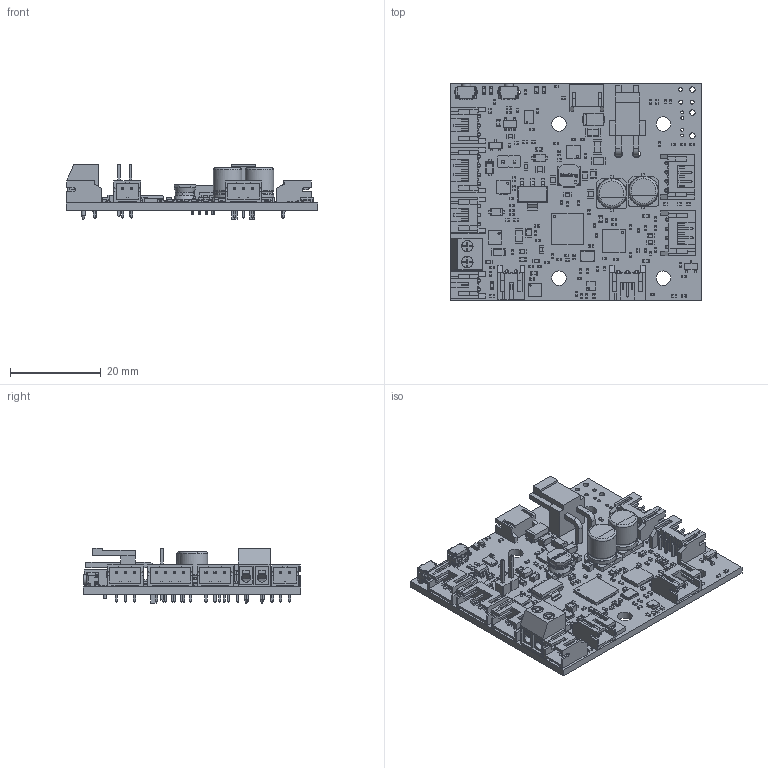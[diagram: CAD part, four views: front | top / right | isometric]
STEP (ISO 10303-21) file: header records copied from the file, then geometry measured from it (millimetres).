
FILE_DESCRIPTION(('KiCad electronic assembly'),'2;1');
FILE_NAME('Duet3_TB_1LC.step','2022-04-05T11:59:11',('Pcbnew'),('Kicad') ,'Open CASCADE STEP processor 7.5','KiCad to STEP converter','Unknown' );
FILE_SCHEMA(('AUTOMOTIVE_DESIGN { 1 0 10303 214 1 1 1 1 }'));
Length unit declared in the file: millimetre
Products named in the file (73): Duet3_TB_1LC 1; Crystal_SMD_SeikoEpson_FA238V-4Pin_3.2x2.5mm; SOLID; R_0402_1005Metric; SOT-23-5; SOT-23; DFN-8-1EP_3x3mm_P0.5mm_EP1.66x2.38mm; L_0402_1005Metric; R_1206_3216Metric; D_SOD-123F; C_1206_3216Metric; C_0402_1005Metric; C_0603_1608Metric; C_0805_2012Metric; QFN-28-1EP_5x5mm_P0.5mm_EP3.35x3.35mm; JST_ZH_S4B-ZH_1x04P1.50mm_Horizontal; SOT-223; SCREWTERMINAL-3_5MM-2; R_0603_1608Metric; SW_TAC_90_TL3340AF160QG; LED_0603_1608Metric; QFN-48-1EP_7x7mm_P0.5mm_EP5.15x5.15mm; JST_PH_S4B-PH-K_1x04_P2.00mm_Horizontal; JST_PH_S3B-PH-K_1x03_P2.00mm_Horizontal; JST_PH_S2B-PH-K_1x02_P2.00mm_Horizontal; QFN-16-1EP_3x3mm_P0.5mm_EP1.8x1.8mm; CP_Elec_6.3x7.7; DFN-8-1EP_3x2mm_P0.5mm_EP1.3x1.5mm; 74404054010_WE-LQS-5040_rev1; COMPOUND; D_SMA; L_1206_3216Metric; L_0805_2012Metric; B2PS-VH; PinHeader_1x02_P2.54mm_Vertical; L_0603_1608Metric; VDFN-8-1EP_2x2mm_P0.5mm_EP0.9x1.7mm; LGA-16_3x3mm_P0.5mm_LayoutBorder3x5y; Duet3_TB_1LC PCB; Duet3_TB_1LC 2
Assembly tree (193 placements, depth 3):
  Duet3_TB_1LC 1
    Crystal_SMD_SeikoEpson_FA238V-4Pin_3.2x2.5mm
      SOLID
    R_0402_1005Metric  x59
      SOLID
    SOT-23-5
      SOLID
    SOT-23  x2
      SOLID
    DFN-8-1EP_3x3mm_P0.5mm_EP1.66x2.38mm  x2
      SOLID
    L_0402_1005Metric
      SOLID
    R_1206_3216Metric
      SOLID
    D_SOD-123F  x3
      SOLID
    C_1206_3216Metric  x3
      SOLID
    C_0402_1005Metric  x31
      SOLID
    C_0603_1608Metric  x11
      SOLID
    C_0805_2012Metric  x5
      SOLID
    QFN-28-1EP_5x5mm_P0.5mm_EP3.35x3.35mm
      SOLID
    JST_ZH_S4B-ZH_1x04P1.50mm_Horizontal
      SOLID
    SOT-223
      SOLID
    SCREWTERMINAL-3_5MM-2
      SOLID
    R_0603_1608Metric  x2
      SOLID
    SW_TAC_90_TL3340AF160QG  x2
      SOLID
    LED_0603_1608Metric  x4
      SOLID
    QFN-48-1EP_7x7mm_P0.5mm_EP5.15x5.15mm
      SOLID
    JST_PH_S4B-PH-K_1x04_P2.00mm_Horizontal  x3
      SOLID
    JST_PH_S3B-PH-K_1x03_P2.00mm_Horizontal  x3
      SOLID
    JST_PH_S2B-PH-K_1x02_P2.00mm_Horizontal  x2
      SOLID
    QFN-16-1EP_3x3mm_P0.5mm_EP1.8x1.8mm
      SOLID
    CP_Elec_6.3x7.7  x2
      SOLID
    DFN-8-1EP_3x2mm_P0.5mm_EP1.3x1.5mm
      SOLID
    74404054010_WE-LQS-5040_rev1
      COMPOUND
    D_SMA
      SOLID
    L_1206_3216Metric
      SOLID
    L_0805_2012Metric
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Bounding box: 55.5 x 48 x 12.34 mm (x, y, z)
Volume: 6784.2 mm3; surface area: 12731.3 mm2
Topology: 162 solids, 164 shells, 7085 faces, 18787 edges, 12262 vertices
Faces by surface type: bspline 6965, cylinder 114, plane 6
Full cylindrical faces by diameter (mm): 0.3 x16, 0.4 x16, 0.65 x4, 0.7 x4, 0.75 x25, 0.84 x3, 0.889 x4, 1 x2, 1.1 x29, 1.199 x2, 1.2 x3, 1.7 x2, 3.2 x4
Entity records: 192905 total; most frequent: CARTESIAN_POINT 75178, B_SPLINE_CURVE_WITH_KNOTS 19632, ORIENTED_EDGE 15110, PCURVE 15110, DEFINITIONAL_REPRESENTATION 15110, EDGE_CURVE 7555, SURFACE_CURVE 7391, VERTEX_POINT 4936
